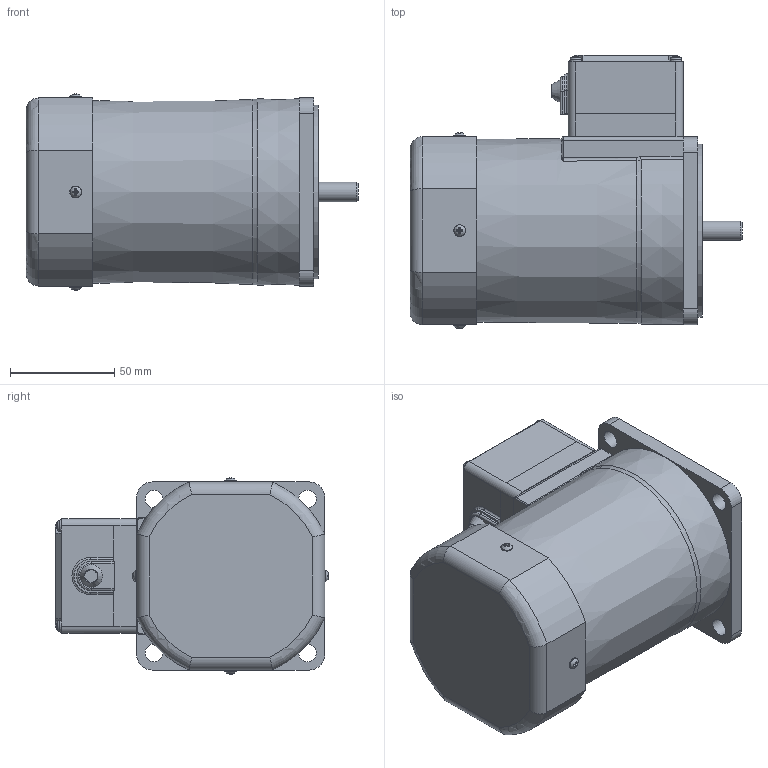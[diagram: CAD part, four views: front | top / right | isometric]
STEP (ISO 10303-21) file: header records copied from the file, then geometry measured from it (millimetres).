
FILE_DESCRIPTION(/* description */ (''),/* implementation_level */ '2;1');
FILE_NAME(/* name */ 'Y:\제품연구개발\3. 도면\3. 고객배포용\3D_홈페이지용\01-1 Standard AC SG Series\04 TERMINAL BOX TYPE MOTORS\REVERSIBLE TERMINAL BOX\SG9R90_-T_\SG9R90G_-T1.stp',/* time_stamp */ '2023-12-06T13:57:59+09:00',/* author */ ('shyi1037'),/* organization */ (''),/* preprocessor_version */ 'ST-DEVELOPER v18.1',/* originating_system */ 'Autodesk Inventor 2022',/* authorisation */ '');
FILE_SCHEMA (('AUTOMOTIVE_DESIGN { 1 0 10303 214 3 1 1 }'));
Length unit declared in the file: millimetre
Products named in the file (1): SG9R90G_-T1
Bounding box: 158.9 x 130.95 x 93.89 mm (x, y, z)
Volume: 1012208.2 mm3; surface area: 70582 mm2
Topology: 1 solids, 6 shells, 352 faces, 931 edges, 604 vertices
Faces by surface type: plane 171, cylinder 66, cone 48, torus 39, bspline 24, sphere 4
Full cylindrical faces by diameter (mm): 3 x4, 3.5 x4, 5.6 x4, 8 x1, 8.5 x4, 9.33 x1, 40 x1, 83 x1
Entity records: 12411 total; most frequent: CARTESIAN_POINT 3555, ORIENTED_EDGE 1850, DIRECTION 1743, EDGE_CURVE 925, AXIS2_PLACEMENT_3D 661, VERTEX_POINT 604, LINE 421, VECTOR 421
